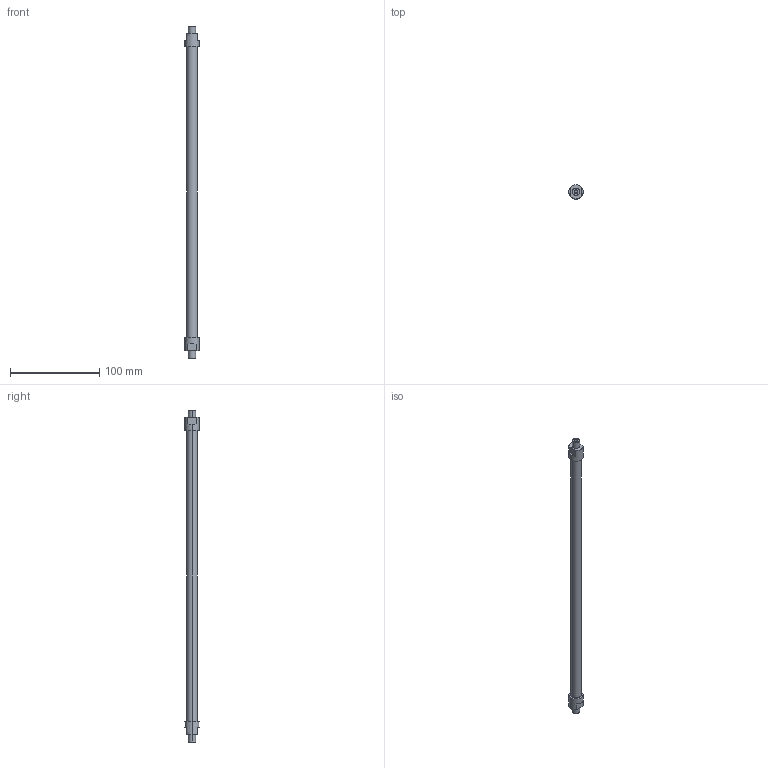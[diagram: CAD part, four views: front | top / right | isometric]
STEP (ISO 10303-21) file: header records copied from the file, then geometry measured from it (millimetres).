
FILE_DESCRIPTION(('STEP AP214'),'1');
FILE_NAME('ETT-R025G365.stp','2015-02-03T08:46:53',(' '),(' '),'Spatial InterOp 3D',' ',' ');
FILE_SCHEMA(('automotive_design'));
Length unit declared in the file: metre
Products named in the file (2): 1; 2
Bounding box: 16 x 16 x 372 mm (x, y, z)
Volume: 43031.2 mm3; surface area: 15130.4 mm2
Topology: 1 solids, 4 shells, 33 faces, 78 edges, 56 vertices
Faces by surface type: plane 17, cylinder 16
Entity records: 1292 total; most frequent: DIRECTION 192, CARTESIAN_POINT 169, ORIENTED_EDGE 144, AXIS2_PLACEMENT_3D 79, EDGE_CURVE 78, VERTEX_POINT 56, CIRCLE 44, EDGE_LOOP 40
